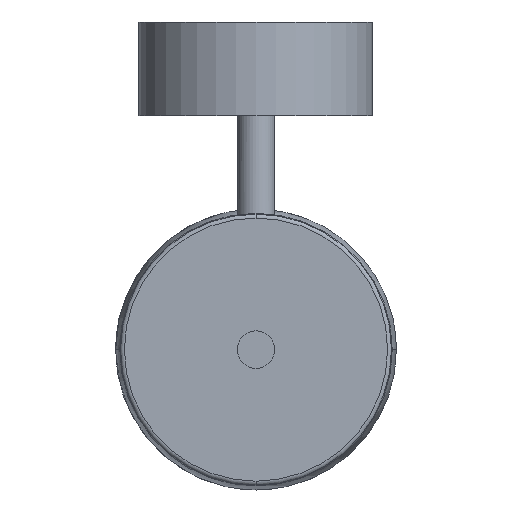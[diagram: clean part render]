
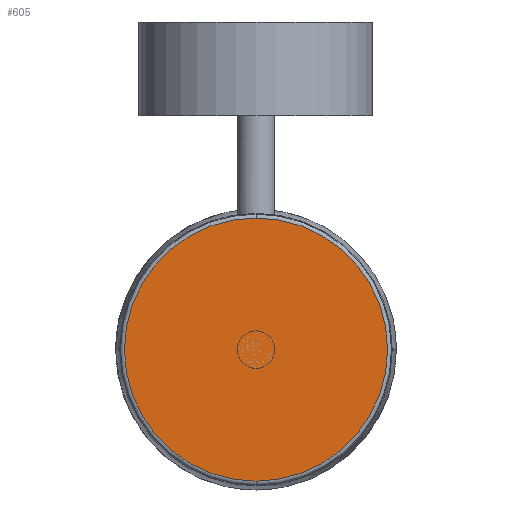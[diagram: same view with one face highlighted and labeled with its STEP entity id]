
A CAD part, front view. The second image highlights one B-rep face of the part: STEP entity #605.
In plain terms, the highlighted planar face has unit normal (0, -1, 0).
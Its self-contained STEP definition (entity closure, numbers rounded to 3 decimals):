
#56 = CIRCLE ( 'NONE', #1017, 56.239 ) ;
#84 = CARTESIAN_POINT ( 'NONE',  ( 0., 0., 56.239 ) ) ;
#85 = VERTEX_POINT ( 'NONE', #84 ) ;
#98 = PLANE ( 'NONE',  #103 ) ;
#103 = AXIS2_PLACEMENT_3D ( 'NONE', #664, #1137, #563 ) ;
#131 = EDGE_CURVE ( 'NONE', #1243, #85, #598, .T. ) ;
#137 = CARTESIAN_POINT ( 'NONE',  ( 0., 0., 0. ) ) ;
#277 = DIRECTION ( 'NONE',  ( 0., 0., 1. ) ) ;
#346 = CARTESIAN_POINT ( 'NONE',  ( 0., 0., -56.239 ) ) ;
#445 = ORIENTED_EDGE ( 'NONE', *, *, #131, .T. ) ;
#563 = DIRECTION ( 'NONE',  ( 0., 0., 1. ) ) ;
#598 = CIRCLE ( 'NONE', #1055, 56.239 ) ;
#605 = ADVANCED_FACE ( 'NONE', ( #780 ), #98, .F. ) ;
#664 = CARTESIAN_POINT ( 'NONE',  ( 0., 0., 0. ) ) ;
#746 = DIRECTION ( 'NONE',  ( 0., -1., 0. ) ) ;
#780 = FACE_OUTER_BOUND ( 'NONE', #1161, .T. ) ;
#837 = ORIENTED_EDGE ( 'NONE', *, *, #1366, .T. ) ;
#1017 = AXIS2_PLACEMENT_3D ( 'NONE', #137, #1466, #1117 ) ;
#1055 = AXIS2_PLACEMENT_3D ( 'NONE', #1444, #746, #277 ) ;
#1117 = DIRECTION ( 'NONE',  ( 0., 0., 1. ) ) ;
#1137 = DIRECTION ( 'NONE',  ( 0., 1., 0. ) ) ;
#1161 = EDGE_LOOP ( 'NONE', ( #837, #445 ) ) ;
#1243 = VERTEX_POINT ( 'NONE', #346 ) ;
#1366 = EDGE_CURVE ( 'NONE', #85, #1243, #56, .T. ) ;
#1444 = CARTESIAN_POINT ( 'NONE',  ( 0., 0., 0. ) ) ;
#1466 = DIRECTION ( 'NONE',  ( 0., -1., 0. ) ) ;
